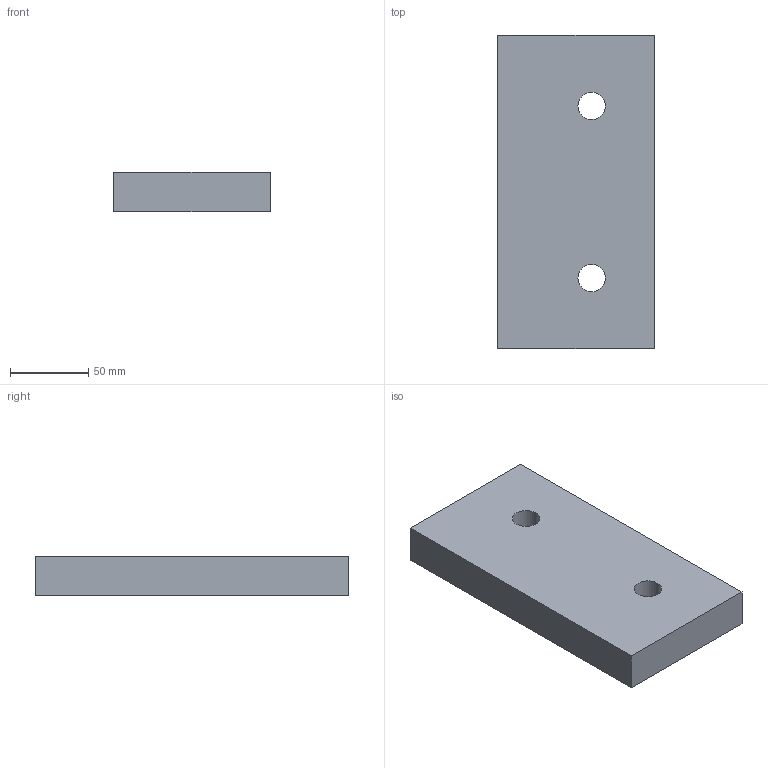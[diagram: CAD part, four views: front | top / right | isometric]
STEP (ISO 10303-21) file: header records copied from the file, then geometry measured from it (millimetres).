
FILE_DESCRIPTION (( 'STEP AP214' ), '1' );
FILE_NAME ('SW225-09-100x200.STEP', '2020-10-27T08:36:35', ( 'August' ), ( '' ), 'SwSTEP 2.0', 'SolidWorks 2018', '' );
FILE_SCHEMA (( 'AUTOMOTIVE_DESIGN' ));
Length unit declared in the file: millimetre
Products named in the file (1): SW225-09-100x200
Bounding box: 100 x 200 x 25 mm (x, y, z)
Volume: 487973.6 mm3; surface area: 56786.8 mm2
Topology: 1 solids, 1 shells, 10 faces, 24 edges, 16 vertices
Faces by surface type: plane 6, cylinder 4
Entity records: 338 total; most frequent: DIRECTION 54, CARTESIAN_POINT 51, ORIENTED_EDGE 48, EDGE_CURVE 24, AXIS2_PLACEMENT_3D 19, LINE 16, VERTEX_POINT 16, VECTOR 16
